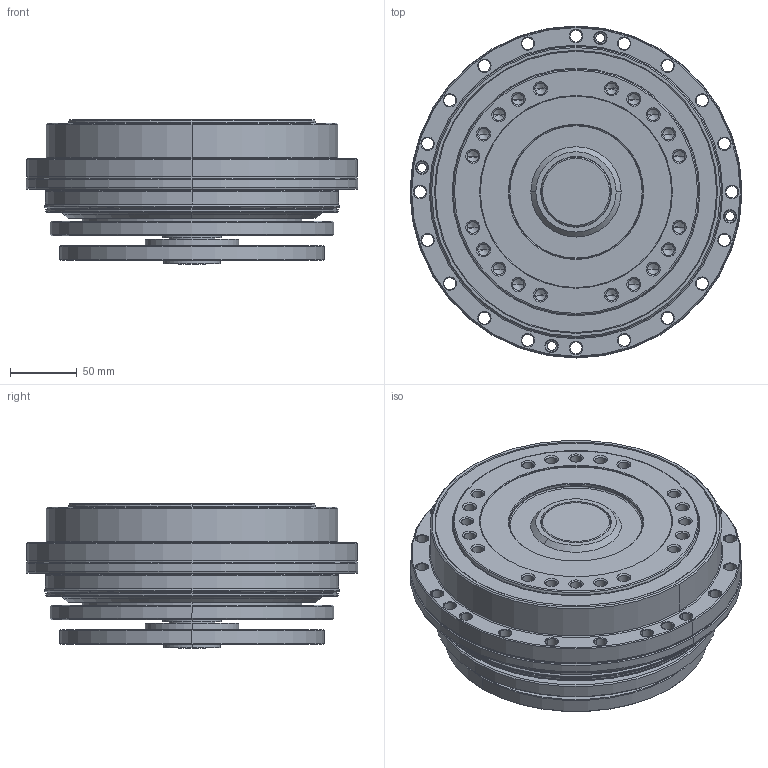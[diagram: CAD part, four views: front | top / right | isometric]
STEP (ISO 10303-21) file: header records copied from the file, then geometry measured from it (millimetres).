
FILE_DESCRIPTION (( 'STEP AP203' ), '1' );
FILE_NAME ('PSC160-V-E-XXX-X-XX-F-0.STEP', '2020-08-20T13:05:29', ( '' ), ( '' ), 'SwSTEP 2.0', 'SolidWorks 2017', '' );
FILE_SCHEMA (( 'CONFIG_CONTROL_DESIGN' ));
Length unit declared in the file: millimetre
Products named in the file (7): 3N4803-01-KS3-SM-00; 202,87x2,62; VK52x10; 3N4802-13 BGR.Dichtungen PSC160V NBR; PSC160-V-E-XXX-X-XX-F-0; 185x210x8_BASL; 160V-Z2
Assembly tree (6 placements, depth 3):
  PSC160-V-E-XXX-X-XX-F-0
    3N4803-01-KS3-SM-00
    160V-Z2
    3N4802-13 BGR.Dichtungen PSC160V NBR
      185x210x8_BASL
      202,87x2,62
      VK52x10
Bounding box: 248 x 248 x 108.05 mm (x, y, z)
Volume: 3526072.4 mm3; surface area: 337465.6 mm2
Topology: 5 solids, 13 shells, 486 faces, 1042 edges, 586 vertices
Faces by surface type: cone 252, cylinder 156, plane 48, torus 30
Entity records: 13711 total; most frequent: DIRECTION 2566, CARTESIAN_POINT 2178, ORIENTED_EDGE 2004, AXIS2_PLACEMENT_3D 1078, EDGE_CURVE 1002, VERTEX_POINT 586, EDGE_LOOP 584, CIRCLE 582
